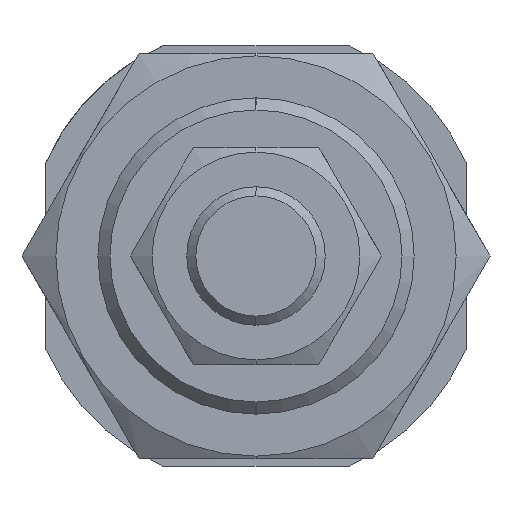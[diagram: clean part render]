
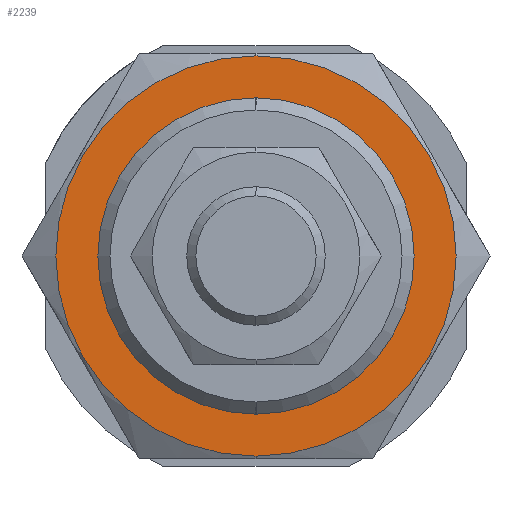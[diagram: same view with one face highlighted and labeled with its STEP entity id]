
A CAD part, left-side view. The second image highlights one B-rep face of the part: STEP entity #2239.
In plain terms, the highlighted planar face has unit normal (-1, 0, 0).
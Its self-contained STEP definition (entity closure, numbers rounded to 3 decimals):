
#67 = VERTEX_POINT ( 'NONE', #1043 ) ;
#144 = CARTESIAN_POINT ( 'NONE',  ( -13., 0., 16. ) ) ;
#193 = CIRCLE ( 'NONE', #2966, 20.25 ) ;
#250 = CARTESIAN_POINT ( 'NONE',  ( -13., 0., 20.25 ) ) ;
#289 = CARTESIAN_POINT ( 'NONE',  ( -13., 0., 0. ) ) ;
#307 = CARTESIAN_POINT ( 'NONE',  ( -13., 0., 0. ) ) ;
#376 = EDGE_LOOP ( 'NONE', ( #4999, #1772 ) ) ;
#469 = CARTESIAN_POINT ( 'NONE',  ( -13., 0., -20.25 ) ) ;
#574 = VERTEX_POINT ( 'NONE', #469 ) ;
#627 = CARTESIAN_POINT ( 'NONE',  ( -13., 0., 0. ) ) ;
#730 = AXIS2_PLACEMENT_3D ( 'NONE', #627, #1495, #3731 ) ;
#1043 = CARTESIAN_POINT ( 'NONE',  ( -13., 0., -16. ) ) ;
#1263 = FACE_OUTER_BOUND ( 'NONE', #376, .T. ) ;
#1339 = VERTEX_POINT ( 'NONE', #144 ) ;
#1413 = CARTESIAN_POINT ( 'NONE',  ( -13., 0., 0. ) ) ;
#1495 = DIRECTION ( 'NONE',  ( 1., 0., 0. ) ) ;
#1608 = DIRECTION ( 'NONE',  ( 1., 0., 0. ) ) ;
#1629 = EDGE_CURVE ( 'NONE', #574, #4104, #4720, .T. ) ;
#1772 = ORIENTED_EDGE ( 'NONE', *, *, #2650, .F. ) ;
#2239 = ADVANCED_FACE ( 'NONE', ( #1263, #4331 ), #2470, .F. ) ;
#2330 = DIRECTION ( 'NONE',  ( 1., 0., 0. ) ) ;
#2400 = AXIS2_PLACEMENT_3D ( 'NONE', #1413, #2330, #5455 ) ;
#2470 = PLANE ( 'NONE',  #3161 ) ;
#2565 = ORIENTED_EDGE ( 'NONE', *, *, #3611, .T. ) ;
#2628 = CIRCLE ( 'NONE', #3564, 16. ) ;
#2650 = EDGE_CURVE ( 'NONE', #4104, #574, #193, .T. ) ;
#2724 = DIRECTION ( 'NONE',  ( 1., 0., 0. ) ) ;
#2774 = DIRECTION ( 'NONE',  ( 0., 0., -1. ) ) ;
#2867 = DIRECTION ( 'NONE',  ( 1., 0., 0. ) ) ;
#2966 = AXIS2_PLACEMENT_3D ( 'NONE', #4956, #2724, #2774 ) ;
#3161 = AXIS2_PLACEMENT_3D ( 'NONE', #307, #1608, #3441 ) ;
#3441 = DIRECTION ( 'NONE',  ( 0., 1., 0. ) ) ;
#3564 = AXIS2_PLACEMENT_3D ( 'NONE', #289, #2867, #5529 ) ;
#3611 = EDGE_CURVE ( 'NONE', #67, #1339, #2628, .T. ) ;
#3731 = DIRECTION ( 'NONE',  ( 0., 0., -1. ) ) ;
#4099 = EDGE_CURVE ( 'NONE', #1339, #67, #5736, .T. ) ;
#4104 = VERTEX_POINT ( 'NONE', #250 ) ;
#4331 = FACE_BOUND ( 'NONE', #4947, .T. ) ;
#4720 = CIRCLE ( 'NONE', #2400, 20.25 ) ;
#4947 = EDGE_LOOP ( 'NONE', ( #5645, #2565 ) ) ;
#4956 = CARTESIAN_POINT ( 'NONE',  ( -13., 0., 0. ) ) ;
#4999 = ORIENTED_EDGE ( 'NONE', *, *, #1629, .F. ) ;
#5455 = DIRECTION ( 'NONE',  ( 0., 0., -1. ) ) ;
#5529 = DIRECTION ( 'NONE',  ( 0., 0., -1. ) ) ;
#5645 = ORIENTED_EDGE ( 'NONE', *, *, #4099, .T. ) ;
#5736 = CIRCLE ( 'NONE', #730, 16. ) ;
